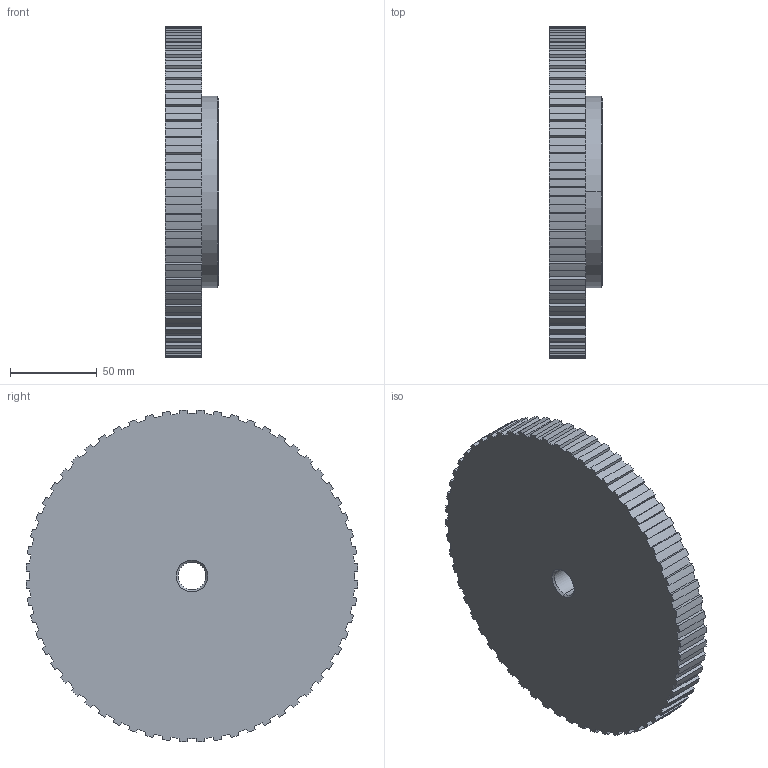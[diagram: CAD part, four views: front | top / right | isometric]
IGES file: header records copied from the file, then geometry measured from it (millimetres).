
Start section: SolidWorks IGES file using analytic representation for surfaces
Global section: file name: E:\HUBER\infos ina\trace part michaud chailly\a9-31t10-60.IGS; native system: SolidWorks 2007; preprocessor: SolidWorks 2007; author: ballot; date: 100517.101048; units: millimetre
Bounding box: 31 x 190.91 x 190.91 mm (x, y, z)
Surface area: 76918.7 mm2 (no closed solid volume)
Topology: 0 solids, 0 shells, 254 faces, 1678 edges, 1678 vertices
Faces by surface type: revolution 131, bspline 123
